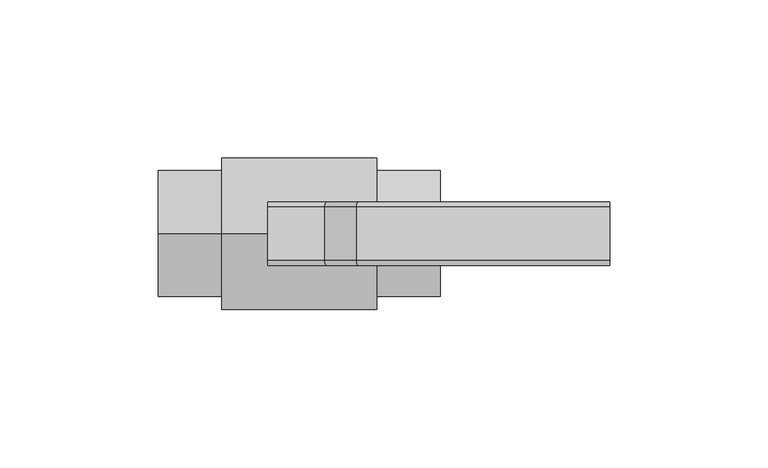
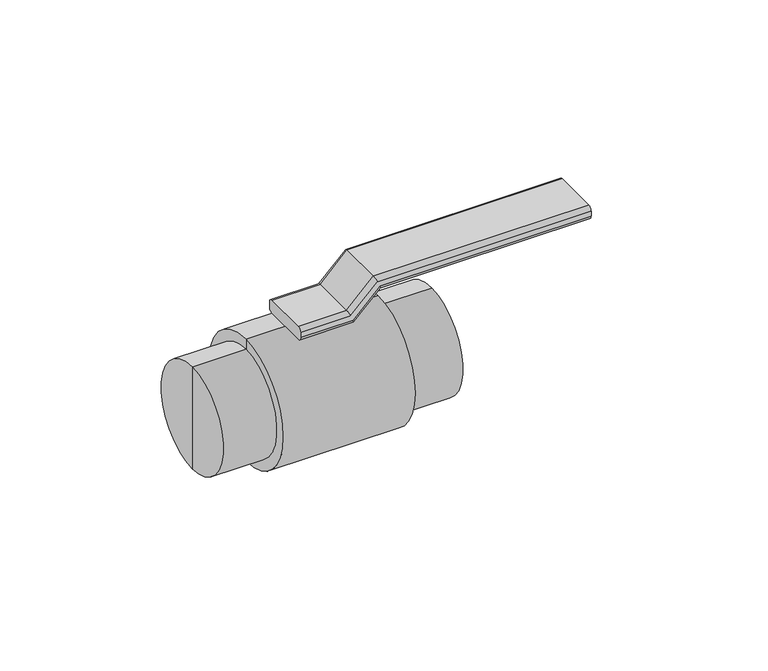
"""IFC4 building model written with IfcOpenShell, lengths in millimetres: valve geometry, NIRON RED valvula de paso esfera : Estándar."""

import ifcopenshell
import ifcopenshell.guid

model = None  # the IFC model being written
_history = None  # IfcOwnerHistory: only IFC2X3 demands one
_inside = {}  # id of a spatial element -> (the spatial element, [elements in it])
_under = {}  # id of a project, library or spatial element -> (it, [spatial elements below it])
_declared = {}  # id of a project -> (the project, [libraries it declares])
_typed = {}  # id of a type object -> (the type object, [elements of that type])
_made_of = {}  # id of a material, layer set ... -> (it, [elements and type objects made of it])


def new_model(schema):
    """Start an empty IFC model of exactly this schema.

    Asked for "IFC4X3", IfcOpenShell would pick the latest addendum, in which some entities
    have other attributes; the version numbers below select the first issue.
    IFC2X3 requires an IfcOwnerHistory on every rooted entity: one is made here for all.
    """
    global model, _history
    if schema == "IFC4X3":
        model = ifcopenshell.file(schema_version=(4, 3, 0, 0))
    else:
        model = ifcopenshell.file(schema=schema)
    _inside.clear()
    _under.clear()
    _declared.clear()
    _typed.clear()
    _made_of.clear()
    _history = None
    if model.schema == "IFC2X3":
        org = make("IfcOrganization", Name="unknown")
        user = make(
            "IfcPersonAndOrganization",
            ThePerson=make("IfcPerson", FamilyName="unknown"),
            TheOrganization=org,
        )
        app = make(
            "IfcApplication",
            ApplicationDeveloper=org,
            Version="unknown",
            ApplicationFullName="unknown",
            ApplicationIdentifier="unknown",
        )
        _history = make(
            "IfcOwnerHistory",
            OwningUser=user,
            OwningApplication=app,
            ChangeAction="ADDED",
            CreationDate=0,
        )
    return model


def make(cls, **values):
    """One entity of the class cls with the attributes given. An attribute that is None is left unset."""
    return model.create_entity(
        cls, **{name: value for name, value in values.items() if value is not None}
    )


def rooted(cls, **values):
    """An entity with a GlobalId (a new one), such as an element, a storey or a relation."""
    return make(cls, GlobalId=ifcopenshell.guid.new(), OwnerHistory=_history, **values)


def si_unit(unit_type, name, prefix=None):
    """IfcSIUnit, for example si_unit("LENGTHUNIT", "METRE", prefix="MILLI")."""
    return make("IfcSIUnit", UnitType=unit_type, Prefix=prefix, Name=name)


def assignment(units):
    """IfcUnitAssignment: the units of a project."""
    return None if units is None else make("IfcUnitAssignment", Units=units)


def point(xyz):
    """IfcCartesianPoint."""
    return None if xyz is None else make("IfcCartesianPoint", Coordinates=xyz)


def direction(xyz):
    """IfcDirection."""
    return None if xyz is None else make("IfcDirection", DirectionRatios=xyz)


def frame(location, z_axis=None, x_axis=None):
    """IfcAxis2Placement3D, a coordinate frame: its origin and axes. An axis left out is left unset."""
    return make(
        "IfcAxis2Placement3D",
        Location=point(location),
        Axis=direction(z_axis),
        RefDirection=direction(x_axis),
    )


def origin():
    """The frame at (0, 0, 0) with its axes left unset."""
    return frame((0.0, 0.0, 0.0))


def place(relative_to, where):
    """IfcLocalPlacement: puts the frame where relative to a parent placement (None: the world)."""
    return make(
        "IfcLocalPlacement", PlacementRelTo=relative_to, RelativePlacement=where
    )


def context(
    kind, dimensions, precision=None, world=None, true_north=None, identifier=None
):
    """IfcGeometricRepresentationContext, for example the 3D "Model" context."""
    return make(
        "IfcGeometricRepresentationContext",
        ContextIdentifier=identifier,
        ContextType=kind,
        CoordinateSpaceDimension=dimensions,
        Precision=precision,
        WorldCoordinateSystem=world,
        TrueNorth=true_north,
    )


def project(units=None, contexts=None):
    """IfcProject with its units and contexts."""
    return rooted(
        "IfcProject",
        Name="project",
        RepresentationContexts=contexts,
        UnitsInContext=assignment(units),
    )


def spatial(cls, under=None, at=None, **own):
    """A site, building, storey or space (cls), placed at a placement, below another one or the project."""
    s = rooted(cls, ObjectPlacement=at, **own)
    if under is not None:
        _under.setdefault(under.id(), (under, []))[1].append(s)
    return s


def circle_curve(where, radius):
    """IfcCircle in the frame where."""
    return make("IfcCircle", Position=where, Radius=radius)


def ellipse_curve(where, semi_axis1, semi_axis2):
    """IfcEllipse in the frame where."""
    return make(
        "IfcEllipse", Position=where, SemiAxis1=semi_axis1, SemiAxis2=semi_axis2
    )


def shape(context_of_items, identifier, shape_type, items):
    """IfcShapeRepresentation: the items that make up one representation, for example the "Body"."""
    return make(
        "IfcShapeRepresentation",
        ContextOfItems=context_of_items,
        RepresentationIdentifier=identifier,
        RepresentationType=shape_type,
        Items=items,
    )


def source(mapping_origin, context_of_items, identifier, shape_type, items):
    """IfcRepresentationMap: a shape defined once, which mapped items show again and again."""
    return make(
        "IfcRepresentationMap",
        MappingOrigin=mapping_origin,
        MappedRepresentation=shape(context_of_items, identifier, shape_type, items),
    )


def transform(
    local_origin,
    x_axis=None,
    y_axis=None,
    z_axis=None,
    scale=None,
    scale2=None,
    scale3=None,
    uniform=True,
):
    """IfcCartesianTransformationOperator3D, or its non-uniform kind. x_axis, y_axis, z_axis: its Axis1, 2, 3."""
    if uniform:
        return make(
            "IfcCartesianTransformationOperator3D",
            Axis1=direction(x_axis),
            Axis2=direction(y_axis),
            LocalOrigin=point(local_origin),
            Scale=scale,
            Axis3=direction(z_axis),
        )
    return make(
        "IfcCartesianTransformationOperator3DnonUniform",
        Axis1=direction(x_axis),
        Axis2=direction(y_axis),
        LocalOrigin=point(local_origin),
        Scale=scale,
        Axis3=direction(z_axis),
        Scale2=scale2,
        Scale3=scale3,
    )


def mapped(mapping_source, mapping_target):
    """IfcMappedItem: shows the shape of a source again, moved by a transform."""
    return make(
        "IfcMappedItem", MappingSource=mapping_source, MappingTarget=mapping_target
    )


def made_of(thing, what):
    """Note that an element or type object is made of a material, layer set ...; save() writes the relation."""
    if what is not None:
        _made_of.setdefault(what.id(), (what, []))[1].append(thing)
    return thing


def element(
    cls,
    number,
    at=None,
    inside=None,
    cuts=None,
    type_object=None,
    material=None,
    context=None,
    identifier="Body",
    shape_type=None,
    held_by="IfcProductDefinitionShape",
    body=None,
    shapes=None,
    **own,
):
    """One element of the class cls, such as IfcWall. Its Tag is "e" and its number.

    at: its placement. inside: the storey or other place that contains it. cuts: it is an
    opening in that element (IfcRelVoidsElement). A single representation is given by context,
    identifier, shape_type and body (its items); several are given by shapes. held_by: the class
    of the entity that holds the representations. save() writes the other relations.
    """
    e = rooted(cls, Tag="e%d" % number, ObjectPlacement=at, **own)
    if body is not None:
        shapes = [shape(context, identifier, shape_type, body)]
    if shapes is not None:
        e.Representation = make(held_by, Representations=shapes)
    if inside is not None:
        _inside.setdefault(inside.id(), (inside, []))[1].append(e)
    if cuts is not None:
        rooted(
            "IfcRelVoidsElement", RelatingBuildingElement=cuts, RelatedOpeningElement=e
        )
    if type_object is not None:
        _typed.setdefault(type_object.id(), (type_object, []))[1].append(e)
    return made_of(e, material)


def aggregate(whole, parts):
    """IfcRelAggregates: a whole, such as a stair, and the parts it consists of."""
    return rooted("IfcRelAggregates", RelatingObject=whole, RelatedObjects=parts)


def save(model, path):
    """Write the relations noted so far, then the file.

    IfcRelAggregates (storeys below a building ...), IfcRelContainedInSpatialStructure (elements
    in a storey), IfcRelDefinesByType, IfcRelAssociatesMaterial and IfcRelDeclares: one each for
    every whole, place, type object, material and project.
    """
    for whole, parts in _under.values():
        aggregate(whole, parts)
    for where, things in _inside.values():
        rooted(
            "IfcRelContainedInSpatialStructure",
            RelatedElements=things,
            RelatingStructure=where,
        )
    for kind, things in _typed.values():
        rooted("IfcRelDefinesByType", RelatedObjects=things, RelatingType=kind)
    for what, things in _made_of.values():
        rooted("IfcRelAssociatesMaterial", RelatedObjects=things, RelatingMaterial=what)
    for by, libraries in _declared.values():
        rooted("IfcRelDeclares", RelatingContext=by, RelatedDefinitions=libraries)
    model.write(path)


def plane_surface(at):
    """IfcPlane: the flat surface through the origin of the frame at, square to its z axis."""
    return make("IfcPlane", Position=at)


def cylinder_surface(at, radius):
    """IfcCylindricalSurface: all points at the distance radius from the z axis of the frame at."""
    return make("IfcCylindricalSurface", Position=at, Radius=radius)


def advanced_brep(points, edges, surfaces, faces):
    """IfcAdvancedBrep: a solid bounded by faces that lie on surfaces and meet in shared edges.

    An edge is (start, end): straight between two places in points (the first is 0);
    or (start, end, curve); or (start, end, curve, False) where it runs against its curve.
    A face is (place in surfaces, loops), or (place, loops, False) where it looks against
    its surface's normal. A loop lists edges by number (the first is 1), with a minus sign
    where the edge is run from its end to its start. The first loop is the outer one.
    """
    corners = [point(p) for p in points]
    vertices = [make("IfcVertexPoint", VertexGeometry=c) for c in corners]
    made = []
    for start, end, *more in edges:
        made.append(
            make(
                "IfcEdgeCurve",
                EdgeStart=vertices[start],
                EdgeEnd=vertices[end],
                EdgeGeometry=more[0] if more else make("IfcPolyline", Points=[corners[start], corners[end]]),
                SameSense=more[1] if len(more) > 1 else True,
            )
        )
    hull = []
    for where, loops, *sense in faces:
        bounds = []
        for j, loop in enumerate(loops):
            ring = [make("IfcOrientedEdge", EdgeElement=made[abs(k) - 1], Orientation=k > 0) for k in loop]
            bounds.append(
                make(
                    "IfcFaceOuterBound" if j == 0 else "IfcFaceBound",
                    Bound=make("IfcEdgeLoop", EdgeList=ring),
                    Orientation=True,
                )
            )
        hull.append(make("IfcAdvancedFace", Bounds=bounds, FaceSurface=surfaces[where], SameSense=sense[0] if sense else True))
    return make("IfcAdvancedBrep", Outer=make("IfcClosedShell", CfsFaces=hull))


def valve_9cb1f8d7(model_context):
    return source(origin(), model_context, "Body", "AdvancedBrep", [
        advanced_brep(
        [(-10.0, 8.4844945, 24.0), (-10.0, -8.5, 24.0), (-10.0, -10.0, 25.5), (-10.0, -10.0, 27.5), (-10.0, -8.5, 29.0), (-10.0, 8.5, 29.0), (-10.0, 10.0, 27.5), (-10.0, 10.0, 25.5155055), (10.0, 8.4844945, 24.0), (10.0, -8.5, 24.0), (9.3786797, -10.0, 25.5), (19.3786797, -10.0, 35.5), (98.0, -10.0, 35.5), (98.0, -10.0, 37.5), (18.5502525, -10.0, 37.5), (8.5502525, -10.0, 27.5), (7.9289322, -8.5, 29.0), (7.9289322, 8.5, 29.0), (8.5502525, 10.0, 27.5), (18.5502525, 10.0, 37.5), (98.0, 10.0, 37.5), (98.0, 10.0, 35.5155055), (19.3722571, 10.0, 35.5155055), (9.3722571, 10.0, 25.5155055), (20.0, 8.4844945, 34.0), (20.0, -8.5, 34.0), (17.9289322, -8.5, 39.0), (17.9289322, 8.5, 39.0), (98.0, 8.4844945, 34.0), (98.0, 8.5, 39.0), (98.0, -8.5, 39.0), (98.0, -8.5, 34.0)],
        [
            (0, 1),
            (1, 2, circle_curve(frame((-10.0, -8.5, 25.5), z_axis=(-1.0, 0.0, 0.0), x_axis=(0.0, 0.0, 1.0)), 1.5)),
            (2, 3),
            (3, 4, circle_curve(frame((-10.0, -8.5, 27.5), z_axis=(-1.0, 0.0, 0.0), x_axis=(0.0, 0.0, 1.0)), 1.5)),
            (4, 5),
            (5, 6, circle_curve(frame((-10.0, 8.5, 27.5), z_axis=(-1.0, 0.0, 0.0), x_axis=(0.0, 0.0, 1.0)), 1.5)),
            (6, 7),
            (7, 0, circle_curve(frame((-10.0, 8.4844945, 25.5155055), z_axis=(-1.0, 0.0, 0.0), x_axis=(0.0, 0.0, 1.0)), 1.5155055)),
            (0, 8),
            (8, 9),
            (9, 1),
            (9, 10, ellipse_curve(frame((9.3786797, -8.5, 25.5), z_axis=(-0.9238795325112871, 0.0, -0.38268343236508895), x_axis=(-0.3826834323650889, 0.0, 0.923879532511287)), 1.6235883, 1.5)),
            (10, 2),
            (10, 11),
            (11, 12),
            (12, 13),
            (13, 14),
            (14, 15),
            (15, 3),
            (15, 16, ellipse_curve(frame((8.5502525, -8.5, 27.5), z_axis=(-0.9238795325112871, 0.0, -0.38268343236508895), x_axis=(-0.3826834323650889, 0.0, 0.923879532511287)), 1.6235883, 1.5)),
            (16, 4),
            (16, 17),
            (17, 5),
            (17, 18, ellipse_curve(frame((8.5502525, 8.5, 27.5), z_axis=(-0.9238795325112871, 0.0, -0.38268343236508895), x_axis=(-0.3826834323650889, 0.0, 0.923879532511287)), 1.6235883, 1.5)),
            (18, 6),
            (18, 19),
            (19, 20),
            (20, 21),
            (21, 22),
            (22, 23),
            (23, 7),
            (23, 8, ellipse_curve(frame((9.3722571, 8.4844945, 25.5155055), z_axis=(-0.9238795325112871, 0.0, -0.38268343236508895), x_axis=(-0.3826834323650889, 0.0, 0.923879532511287)), 1.6403713, 1.5155055)),
            (8, 24),
            (24, 25),
            (25, 9),
            (25, 11, ellipse_curve(frame((19.3786797, -8.5, 35.5), z_axis=(-0.9238795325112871, 0.0, -0.38268343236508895), x_axis=(0.3826834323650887, 0.0, -0.9238795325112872)), 1.6235883, 1.5)),
            (14, 26, ellipse_curve(frame((18.5502525, -8.5, 37.5), z_axis=(-0.9238795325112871, 0.0, -0.38268343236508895), x_axis=(0.3826834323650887, 0.0, -0.9238795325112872)), 1.6235883, 1.5)),
            (26, 16),
            (26, 27),
            (27, 17),
            (27, 19, ellipse_curve(frame((18.5502525, 8.5, 37.5), z_axis=(-0.9238795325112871, 0.0, -0.38268343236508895), x_axis=(0.3826834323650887, 0.0, -0.9238795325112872)), 1.6235883, 1.5)),
            (22, 24, ellipse_curve(frame((19.3722571, 8.4844945, 35.5155055), z_axis=(-0.9238795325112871, 0.0, -0.38268343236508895), x_axis=(0.3826834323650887, 0.0, -0.9238795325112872)), 1.6403713, 1.5155055)),
            (28, 21, circle_curve(frame((98.0, 8.4844945, 35.5155055), z_axis=(1.0, 0.0, 0.0), x_axis=(0.0, 0.0, 1.0)), 1.5155055)),
            (20, 29, circle_curve(frame((98.0, 8.5, 37.5), z_axis=(1.0, 0.0, 0.0), x_axis=(0.0, 0.0, 1.0)), 1.5)),
            (29, 30),
            (30, 13, circle_curve(frame((98.0, -8.5, 37.5), z_axis=(1.0, 0.0, 0.0), x_axis=(0.0, 0.0, 1.0)), 1.5)),
            (12, 31, circle_curve(frame((98.0, -8.5, 35.5), z_axis=(1.0, 0.0, 0.0), x_axis=(0.0, 0.0, 1.0)), 1.5)),
            (31, 28),
            (24, 28),
            (31, 25),
            (30, 26),
            (29, 27),
        ],
        [
            plane_surface(frame((-10.0, 0.0, 24.0), z_axis=(-1.0, 0.0, 0.0), x_axis=(0.0, -1.0, 0.0))),
            plane_surface(frame((-10.0, 8.4844945, 24.0), z_axis=(0.0, 0.0, -1.0), x_axis=(1.0, 0.0, 0.0))),
            cylinder_surface(frame((-10.0, -8.5, 25.5), z_axis=(-1.0, 0.0, 0.0), x_axis=(0.0, 0.0, 1.0)), 1.5),
            plane_surface(frame((-10.0, -10.0, 25.5), z_axis=(0.0, -1.0, 0.0), x_axis=(1.0, 0.0, 0.0))),
            cylinder_surface(frame((-10.0, -8.5, 27.5), z_axis=(-1.0, 0.0, 0.0), x_axis=(0.0, 0.0, 1.0)), 1.5),
            plane_surface(frame((-10.0, -8.5, 29.0), z_axis=(0.0, 0.0, 1.0), x_axis=(1.0, 0.0, 0.0))),
            cylinder_surface(frame((-10.0, 8.5, 27.5), z_axis=(-1.0, 0.0, 0.0), x_axis=(0.0, 0.0, 1.0)), 1.5),
            plane_surface(frame((-10.0, 10.0, 27.5), z_axis=(0.0, 1.0, 0.0), x_axis=(1.0, 0.0, 0.0))),
            cylinder_surface(frame((-10.0, 8.4844945, 25.5155055), z_axis=(-1.0, 0.0, 0.0), x_axis=(0.0, 0.0, 1.0)), 1.5155055),
            plane_surface(frame((10.0, 8.4844945, 24.0), z_axis=(0.7071067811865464, 0.0, -0.7071067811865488), x_axis=(0.7071067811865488, 0.0, 0.7071067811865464))),
            cylinder_surface(frame((8.9393398, -8.5, 25.0606602), z_axis=(-0.7071067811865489, 0.0, -0.7071067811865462), x_axis=(-0.7071067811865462, 0.0, 0.7071067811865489)), 1.5),
            cylinder_surface(frame((7.5251263, -8.5, 26.4748737), z_axis=(-0.7071067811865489, 0.0, -0.7071067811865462), x_axis=(-0.7071067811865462, 0.0, 0.7071067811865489)), 1.5),
            plane_surface(frame((7.9289322, -8.5, 29.0), z_axis=(-0.707106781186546, 0.0, 0.7071067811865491), x_axis=(0.7071067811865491, 0.0, 0.707106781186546))),
            cylinder_surface(frame((7.5251263, 8.5, 26.4748737), z_axis=(-0.7071067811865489, 0.0, -0.7071067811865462), x_axis=(-0.7071067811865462, 0.0, 0.7071067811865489)), 1.5),
            cylinder_surface(frame((8.9283758, 8.4844945, 25.0716242), z_axis=(-0.7071067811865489, 0.0, -0.7071067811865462), x_axis=(-0.7071067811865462, 0.0, 0.7071067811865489)), 1.5155055),
            plane_surface(frame((98.0, 0.0, 34.0), z_axis=(1.0, 0.0, 0.0), x_axis=(0.0, -1.0, 0.0))),
            plane_surface(frame((20.0, 8.4844945, 34.0), z_axis=(0.0, 0.0, -1.0), x_axis=(1.0, 0.0, 0.0))),
            cylinder_surface(frame((20.0, -8.5, 35.5), z_axis=(-1.0, 0.0, 0.0), x_axis=(0.0, 0.0, 1.0)), 1.5),
            cylinder_surface(frame((20.0, -8.5, 37.5), z_axis=(-1.0, 0.0, 0.0), x_axis=(0.0, 0.0, 1.0)), 1.5),
            plane_surface(frame((17.9289322, -8.5, 39.0), z_axis=(0.0, 0.0, 1.0), x_axis=(1.0, 0.0, 0.0))),
            cylinder_surface(frame((20.0, 8.5, 37.5), z_axis=(-1.0, 0.0, 0.0), x_axis=(0.0, 0.0, 1.0)), 1.5),
            cylinder_surface(frame((20.0, 8.4844945, 35.5155055), z_axis=(-1.0, 0.0, 0.0), x_axis=(0.0, 0.0, 1.0)), 1.5155055),
        ],
        [
            (0, [[1, 2, 3, 4, 5, 6, 7, 8]]),
            (1, [[-1, 9, 10, 11]]),
            (2, [[-2, -11, 12, 13]]),
            (3, [[-3, -13, 14, 15, 16, 17, 18, 19]]),
            (4, [[-4, -19, 20, 21]]),
            (5, [[-5, -21, 22, 23]]),
            (6, [[-6, -23, 24, 25]]),
            (7, [[-7, -25, 26, 27, 28, 29, 30, 31]]),
            (8, [[-8, -31, 32, -9]]),
            (9, [[-10, 33, 34, 35]]),
            (10, [[-12, -35, 36, -14]]),
            (11, [[-20, -18, 37, 38]]),
            (12, [[-22, -38, 39, 40]]),
            (13, [[-24, -40, 41, -26]]),
            (14, [[-32, -30, 42, -33]]),
            (15, [[43, -28, 44, 45, 46, -16, 47, 48]]),
            (16, [[-34, 49, -48, 50]]),
            (17, [[-36, -50, -47, -15]]),
            (18, [[-37, -17, -46, 51]]),
            (19, [[-39, -51, -45, 52]]),
            (20, [[-41, -52, -44, -27]]),
            (21, [[-42, -29, -43, -49]]),
        ],
    ),
        advanced_brep(
        [(-44.5, 0.0, 0.0), (-44.5, 0.0, 20.0), (-44.5, 0.0, -20.0), (44.5, 0.0, -20.0), (44.5, 0.0, 20.0), (44.5, 0.0, 0.0), (24.5, 0.0, -20.0), (24.5, 0.0, 20.0), (24.5, 0.0, -24.0), (24.5, 0.0, 24.0), (-24.5, 0.0, -24.0), (-24.5, 0.0, 24.0), (-24.5, 0.0, -20.0), (-24.5, 0.0, 20.0)],
        [
            (0, 1),
            (1, 2, circle_curve(frame((-44.5, 0.0, 0.0), z_axis=(-1.0, 0.0, 0.0), x_axis=(0.0, 0.0, 1.0)), 20.0)),
            (2, 0),
            (2, 1, circle_curve(frame((-44.5, 0.0, 0.0), z_axis=(-1.0, 0.0, 0.0), x_axis=(0.0, 0.0, 1.0)), 20.0)),
            (3, 4, circle_curve(frame((44.5, 0.0, 0.0), z_axis=(1.0, 0.0, 0.0), x_axis=(0.0, 0.0, 1.0)), 20.0)),
            (4, 5),
            (5, 3),
            (4, 3, circle_curve(frame((44.5, 0.0, 0.0), z_axis=(1.0, 0.0, 0.0), x_axis=(0.0, 0.0, 1.0)), 20.0)),
            (6, 7, circle_curve(frame((24.5, 0.0, 0.0), z_axis=(1.0, 0.0, 0.0), x_axis=(0.0, 0.0, 1.0)), 20.0)),
            (7, 4),
            (3, 6),
            (7, 6, circle_curve(frame((24.5, 0.0, 0.0), z_axis=(1.0, 0.0, 0.0), x_axis=(0.0, 0.0, 1.0)), 20.0)),
            (8, 9, circle_curve(frame((24.5, 0.0, 0.0), z_axis=(1.0, 0.0, 0.0), x_axis=(0.0, 0.0, 1.0)), 24.0)),
            (9, 7),
            (6, 8),
            (9, 8, circle_curve(frame((24.5, 0.0, 0.0), z_axis=(1.0, 0.0, 0.0), x_axis=(0.0, 0.0, 1.0)), 24.0)),
            (10, 11, circle_curve(frame((-24.5, 0.0, 0.0), z_axis=(1.0, 0.0, 0.0), x_axis=(0.0, 0.0, 1.0)), 24.0)),
            (11, 9),
            (8, 10),
            (11, 10, circle_curve(frame((-24.5, 0.0, 0.0), z_axis=(1.0, 0.0, 0.0), x_axis=(0.0, 0.0, 1.0)), 24.0)),
            (12, 13, circle_curve(frame((-24.5, 0.0, 0.0), z_axis=(1.0, 0.0, 0.0), x_axis=(0.0, 0.0, 1.0)), 20.0)),
            (13, 11),
            (10, 12),
            (13, 12, circle_curve(frame((-24.5, 0.0, 0.0), z_axis=(1.0, 0.0, 0.0), x_axis=(0.0, 0.0, 1.0)), 20.0)),
            (1, 13),
            (12, 2),
        ],
        [
            plane_surface(frame((-44.5, 0.0, 0.0), z_axis=(-1.0, 0.0, 0.0), x_axis=(0.0, 0.0, 1.0))),
            plane_surface(frame((44.5, 0.0, 0.0), z_axis=(1.0, 0.0, 0.0), x_axis=(0.0, 0.0, 1.0))),
            cylinder_surface(frame((-1350.046, 0.0, 0.0), z_axis=(-1.0, 0.0, 0.0), x_axis=(0.0, 0.0, 1.0)), 20.0),
            plane_surface(frame((24.5, 0.0, 0.0), z_axis=(1.0, 0.0, 0.0), x_axis=(0.0, 0.0, 1.0))),
            cylinder_surface(frame((-1350.046, 0.0, 0.0), z_axis=(-1.0, 0.0, 0.0), x_axis=(0.0, 0.0, 1.0)), 24.0),
            plane_surface(frame((-24.5, 0.0, 0.0), z_axis=(-1.0, 0.0, 0.0), x_axis=(0.0, 0.0, 1.0))),
        ],
        [
            (0, [[1, 2, 3]]),
            (0, [[-3, 4, -1]]),
            (1, [[5, 6, 7]]),
            (1, [[8, -7, -6]]),
            (2, [[9, 10, -5, 11]]),
            (2, [[12, -11, -8, -10]]),
            (3, [[13, 14, -9, 15]]),
            (3, [[16, -15, -12, -14]]),
            (4, [[17, 18, -13, 19]]),
            (4, [[20, -19, -16, -18]]),
            (5, [[21, 22, -17, 23]]),
            (5, [[24, -23, -20, -22]]),
            (2, [[-2, 25, -21, 26]]),
            (2, [[-4, -26, -24, -25]]),
        ],
    ),
    ])


if __name__ == "__main__":
    model = new_model("IFC4")
    model_context = context("Model", 3, world=origin())
    ifc_project = project(units=[si_unit("LENGTHUNIT", "METRE", prefix="MILLI")], contexts=[model_context])
    site = spatial("IfcSite", under=ifc_project)
    building = spatial("IfcBuilding", under=site)
    placement = place(None, origin())
    valve_shape = valve_9cb1f8d7(model_context)
    element("IfcValve", 1, ObjectType="NIRON RED valvula de paso esfera : Estándar", at=placement, inside=building, context=model_context, shape_type="MappedRepresentation", body=[
        mapped(valve_shape, transform((0.0, 0.0, 0.0), x_axis=(1.0, 0.0, 0.0), y_axis=(0.0, 1.0, 0.0), z_axis=(0.0, 0.0, 1.0))),
    ])
    save(model, "model.ifc")
